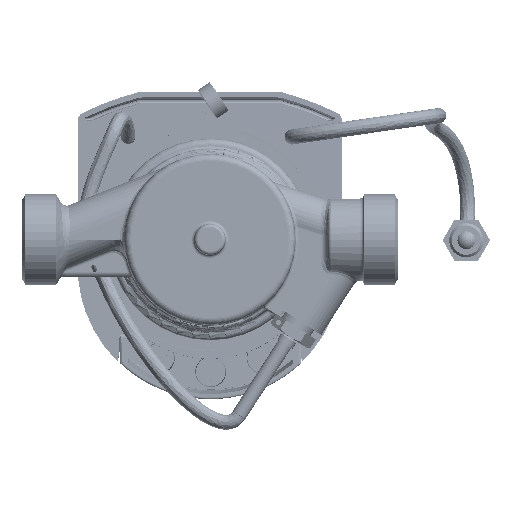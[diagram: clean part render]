
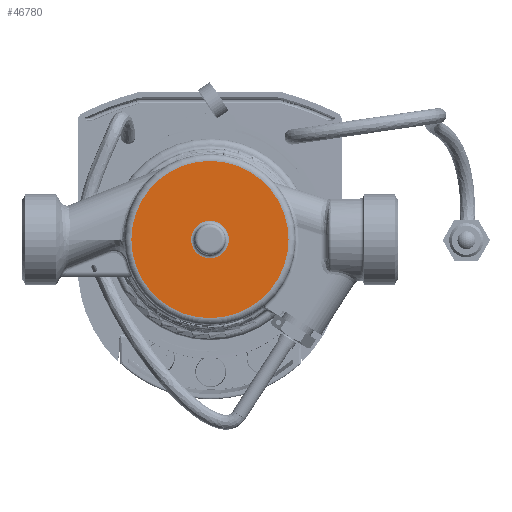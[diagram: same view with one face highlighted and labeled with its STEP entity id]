
A CAD part, front view. The second image highlights one B-rep face of the part: STEP entity #46780.
In plain terms, the highlighted planar face has unit normal (0, -1, 0).
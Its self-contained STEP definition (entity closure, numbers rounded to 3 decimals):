
#11353 = DIRECTION ( 'NONE',  ( 0., 1., 0. ) ) ;
#15082 = CARTESIAN_POINT ( 'NONE',  ( -25., 2.3, 0. ) ) ;
#18657 = EDGE_CURVE ( 'NONE', #35317, #266140, #98193, .T. ) ;
#22867 = AXIS2_PLACEMENT_3D ( 'NONE', #191322, #42617, #195478 ) ;
#23818 = VERTEX_POINT ( 'NONE', #166406 ) ;
#32403 = DIRECTION ( 'NONE',  ( 0., 0., 1. ) ) ;
#35317 = VERTEX_POINT ( 'NONE', #234757 ) ;
#39880 = CIRCLE ( 'NONE', #53232, 23. ) ;
#42617 = DIRECTION ( 'NONE',  ( 0., -1., 0. ) ) ;
#45417 = CIRCLE ( 'NONE', #211171, 5.5 ) ;
#46064 = CARTESIAN_POINT ( 'NONE',  ( 0., 2.3, 5.5 ) ) ;
#46407 = FACE_BOUND ( 'NONE', #146154, .T. ) ;
#46780 = ADVANCED_FACE ( 'NONE', ( #46407, #131905 ), #217530, .F. ) ;
#53232 = AXIS2_PLACEMENT_3D ( 'NONE', #257292, #154674, #156051 ) ;
#68851 = EDGE_CURVE ( 'NONE', #23818, #257329, #116826, .T. ) ;
#70367 = EDGE_CURVE ( 'NONE', #266140, #35317, #45417, .T. ) ;
#74471 = ORIENTED_EDGE ( 'NONE', *, *, #68851, .T. ) ;
#75696 = CARTESIAN_POINT ( 'NONE',  ( 0., 2.3, 0. ) ) ;
#87177 = EDGE_LOOP ( 'NONE', ( #74471, #213307 ) ) ;
#91132 = EDGE_CURVE ( 'NONE', #257329, #23818, #39880, .T. ) ;
#98193 = CIRCLE ( 'NONE', #138595, 5.5 ) ;
#101013 = CARTESIAN_POINT ( 'NONE',  ( 0., 2.3, 0. ) ) ;
#116826 = CIRCLE ( 'NONE', #22867, 23. ) ;
#122987 = DIRECTION ( 'NONE',  ( 0., 1., 0. ) ) ;
#131905 = FACE_OUTER_BOUND ( 'NONE', #87177, .T. ) ;
#138595 = AXIS2_PLACEMENT_3D ( 'NONE', #75696, #161152, #246860 ) ;
#142622 = DIRECTION ( 'NONE',  ( 0., 0., 1. ) ) ;
#146154 = EDGE_LOOP ( 'NONE', ( #266355, #246547 ) ) ;
#153629 = AXIS2_PLACEMENT_3D ( 'NONE', #15082, #122987, #142622 ) ;
#154674 = DIRECTION ( 'NONE',  ( 0., -1., 0. ) ) ;
#156051 = DIRECTION ( 'NONE',  ( 0., 0., 1. ) ) ;
#161152 = DIRECTION ( 'NONE',  ( 0., 1., 0. ) ) ;
#166406 = CARTESIAN_POINT ( 'NONE',  ( 0., 2.3, 23. ) ) ;
#191322 = CARTESIAN_POINT ( 'NONE',  ( 0., 2.3, 0. ) ) ;
#195478 = DIRECTION ( 'NONE',  ( 0., 0., 1. ) ) ;
#211171 = AXIS2_PLACEMENT_3D ( 'NONE', #101013, #11353, #32403 ) ;
#213307 = ORIENTED_EDGE ( 'NONE', *, *, #91132, .T. ) ;
#217530 = PLANE ( 'NONE',  #153629 ) ;
#234757 = CARTESIAN_POINT ( 'NONE',  ( 0., 2.3, -5.5 ) ) ;
#238098 = CARTESIAN_POINT ( 'NONE',  ( 0., 2.3, -23. ) ) ;
#246547 = ORIENTED_EDGE ( 'NONE', *, *, #18657, .T. ) ;
#246860 = DIRECTION ( 'NONE',  ( 0., 0., 1. ) ) ;
#257292 = CARTESIAN_POINT ( 'NONE',  ( 0., 2.3, 0. ) ) ;
#257329 = VERTEX_POINT ( 'NONE', #238098 ) ;
#266140 = VERTEX_POINT ( 'NONE', #46064 ) ;
#266355 = ORIENTED_EDGE ( 'NONE', *, *, #70367, .T. ) ;
